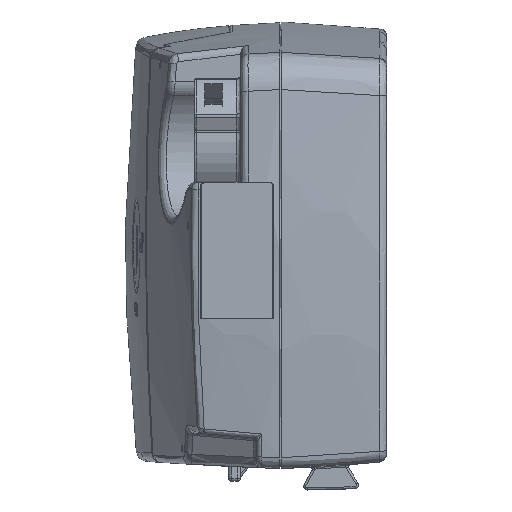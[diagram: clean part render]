
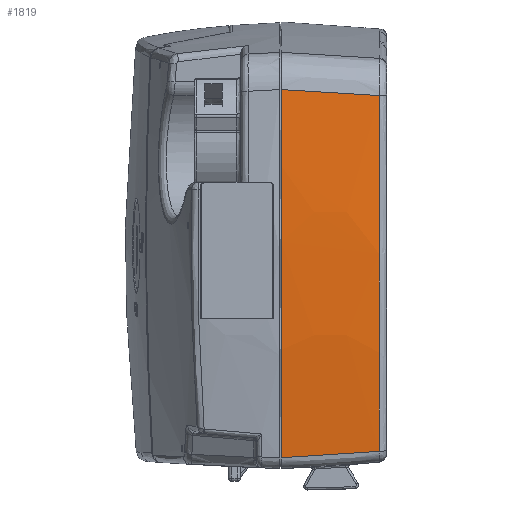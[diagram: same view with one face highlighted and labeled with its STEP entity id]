
A CAD part, left-side view. The second image highlights one B-rep face of the part: STEP entity #1819.
In plain terms, the highlighted free-form (B-spline) face has degree [3, 3] with [4, 4] control points.
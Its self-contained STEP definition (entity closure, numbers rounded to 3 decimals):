
#1819 = ADVANCED_FACE ( 'NONE', ( #23964 ), #46394, .F. ) ;
#1974 = CARTESIAN_POINT ( 'NONE',  ( -104.412, 8.767, -52.857 ) ) ;
#2133 = CARTESIAN_POINT ( 'NONE',  ( -104.899, 0.6, 39.07 ) ) ;
#2349 = EDGE_CURVE ( 'NONE', #36584, #24264, #32482, .T. ) ;
#3182 = CARTESIAN_POINT ( 'NONE',  ( -105.434, 4.829, 37.411 ) ) ;
#3643 = EDGE_CURVE ( 'NONE', #6511, #42723, #33957, .T. ) ;
#5065 = B_SPLINE_CURVE_WITH_KNOTS ( 'NONE', 3,
 ( #33793, #37663, #49286, #26238, #3182, #30090 ),
 .UNSPECIFIED., .F., .F.,
 ( 4, 2, 4 ),
 ( 0., 0.498, 1. ),
 .UNSPECIFIED. ) ;
#5839 = CARTESIAN_POINT ( 'NONE',  ( -108.481, 25., -22.304 ) ) ;
#6511 = VERTEX_POINT ( 'NONE', #28414 ) ;
#8777 = CARTESIAN_POINT ( 'NONE',  ( -104.21, 4.817, -51.122 ) ) ;
#9690 = CARTESIAN_POINT ( 'NONE',  ( -107.658, 8.635, -22.304 ) ) ;
#9996 = CARTESIAN_POINT ( 'NONE',  ( -107.776, 25., -22.095 ) ) ;
#12660 = CARTESIAN_POINT ( 'NONE',  ( -104.504, 8.854, -51.447 ) ) ;
#13567 = CARTESIAN_POINT ( 'NONE',  ( -108.907, 25., 8.425 ) ) ;
#13880 = CARTESIAN_POINT ( 'NONE',  ( -108.196, 25., 8.248 ) ) ;
#15000 = CARTESIAN_POINT ( 'NONE',  ( -106.167, 0.809, 22.402 ) ) ;
#16520 = CARTESIAN_POINT ( 'NONE',  ( -105.163, 20.975, -52.175 ) ) ;
#17431 = CARTESIAN_POINT ( 'NONE',  ( -108.085, 8.617, 8.425 ) ) ;
#17738 = CARTESIAN_POINT ( 'NONE',  ( -106.548, 25., 38.526 ) ) ;
#17811 = CARTESIAN_POINT ( 'NONE',  ( -103.863, 0.809, -50.738 ) ) ;
#18176 = ORIENTED_EDGE ( 'NONE', *, *, #2349, .F. ) ;
#18867 = CARTESIAN_POINT ( 'NONE',  ( -105.074, 0.809, 37.052 ) ) ;
#19897 = EDGE_CURVE ( 'NONE', #24264, #6511, #5065, .T. ) ;
#20062 = ORIENTED_EDGE ( 'NONE', *, *, #27258, .F. ) ;
#20261 = ORIENTED_EDGE ( 'NONE', *, *, #3643, .F. ) ;
#21134 = CARTESIAN_POINT ( 'NONE',  ( -105.232, 25., -52.857 ) ) ;
#21297 = CARTESIAN_POINT ( 'NONE',  ( -106.505, 25., 39.07 ) ) ;
#22758 = CARTESIAN_POINT ( 'NONE',  ( -105.36, 0.809, -36.124 ) ) ;
#23964 = FACE_OUTER_BOUND ( 'NONE', #44591, .T. ) ;
#24264 = VERTEX_POINT ( 'NONE', #27548 ) ;
#25216 = CARTESIAN_POINT ( 'NONE',  ( -105.684, 8.715, 39.07 ) ) ;
#26238 = CARTESIAN_POINT ( 'NONE',  ( -105.738, 8.878, 37.716 ) ) ;
#27258 = EDGE_CURVE ( 'NONE', #42723, #36584, #41711, .T. ) ;
#27548 = CARTESIAN_POINT ( 'NONE',  ( -106.548, 25., 38.526 ) ) ;
#28414 = CARTESIAN_POINT ( 'NONE',  ( -105.074, 0.809, 37.052 ) ) ;
#28911 = CARTESIAN_POINT ( 'NONE',  ( -103.629, 0.678, -52.857 ) ) ;
#30090 = CARTESIAN_POINT ( 'NONE',  ( -105.074, 0.809, 37.052 ) ) ;
#31848 = CARTESIAN_POINT ( 'NONE',  ( -103.863, 0.809, -50.738 ) ) ;
#32482 = B_SPLINE_CURVE_WITH_KNOTS ( 'NONE', 3,
 ( #36944, #48400, #9996, #13880, #40811, #17738 ),
 .UNSPECIFIED., .F., .F.,
 ( 4, 2, 4 ),
 ( 0., 0.5, 1. ),
 .UNSPECIFIED. ) ;
#32750 = CARTESIAN_POINT ( 'NONE',  ( -108.195, 16.811, -22.304 ) ) ;
#33793 = CARTESIAN_POINT ( 'NONE',  ( -106.548, 25., 38.526 ) ) ;
#33957 = B_SPLINE_CURVE_WITH_KNOTS ( 'NONE', 3,
 ( #18867, #15000, #41932, #45816, #22758, #49678 ),
 .UNSPECIFIED., .F., .F.,
 ( 4, 2, 4 ),
 ( 0., 0.5, 1. ),
 .UNSPECIFIED. ) ;
#36584 = VERTEX_POINT ( 'NONE', #46549 ) ;
#36635 = CARTESIAN_POINT ( 'NONE',  ( -106.871, 0.478, -22.304 ) ) ;
#36944 = CARTESIAN_POINT ( 'NONE',  ( -105.29, 25., -52.316 ) ) ;
#37663 = CARTESIAN_POINT ( 'NONE',  ( -106.417, 20.99, 38.395 ) ) ;
#39577 = CARTESIAN_POINT ( 'NONE',  ( -104.981, 16.944, -51.974 ) ) ;
#40493 = CARTESIAN_POINT ( 'NONE',  ( -108.622, 16.802, 8.425 ) ) ;
#40811 = CARTESIAN_POINT ( 'NONE',  ( -107.717, 25., 23.398 ) ) ;
#41711 =( BOUNDED_CURVE ( )  B_SPLINE_CURVE ( 3, ( #31848, #8777, #12660, #39577, #16520, #43459 ),
 .UNSPECIFIED., .F., .F. ) 
 B_SPLINE_CURVE_WITH_KNOTS ( ( 4, 2, 4 ),
 ( 0., 0.501, 1. ),
 .UNSPECIFIED. ) 
 CURVE ( )  GEOMETRIC_REPRESENTATION_ITEM ( )  RATIONAL_B_SPLINE_CURVE ( ( 1., 1., 1., 1., 1., 1. ) ) 
 REPRESENTATION_ITEM ( '' )  );
#41932 = CARTESIAN_POINT ( 'NONE',  ( -106.609, 0.809, 7.762 ) ) ;
#42530 = ORIENTED_EDGE ( 'NONE', *, *, #19897, .F. ) ;
#42723 = VERTEX_POINT ( 'NONE', #17811 ) ;
#43459 = CARTESIAN_POINT ( 'NONE',  ( -105.29, 25., -52.316 ) ) ;
#44368 = CARTESIAN_POINT ( 'NONE',  ( -107.297, 0.452, 8.425 ) ) ;
#44591 = EDGE_LOOP ( 'NONE', ( #20261, #42530, #18176, #20062 ) ) ;
#45816 = CARTESIAN_POINT ( 'NONE',  ( -106.205, 0.809, -21.502 ) ) ;
#46394 =( BOUNDED_SURFACE ( )  B_SPLINE_SURFACE ( 3, 3, ( 
 ( #21134, #48083, #1974, #28911 ),
 ( #5839, #32750, #9690, #36635 ),
 ( #13567, #40493, #17431, #44368 ),
 ( #21297, #48251, #25216, #2133 ) ),
 .UNSPECIFIED., .F., .F., .F. ) 
 B_SPLINE_SURFACE_WITH_KNOTS ( ( 4, 4 ),
 ( 4, 4 ),
 ( 0.468, 0.524 ),
 ( 0., 1. ),
 .UNSPECIFIED. ) 
 GEOMETRIC_REPRESENTATION_ITEM ( )  RATIONAL_B_SPLINE_SURFACE ( (
 ( 0.602, 0.602, 0.602, 0.602),
 ( 0.6, 0.6, 0.6, 0.6),
 ( 0.6, 0.6, 0.6, 0.6),
 ( 0.601, 0.601, 0.601, 0.601) ) ) 
 REPRESENTATION_ITEM ( '' )  SURFACE ( )  );
#46549 = CARTESIAN_POINT ( 'NONE',  ( -105.29, 25., -52.316 ) ) ;
#48083 = CARTESIAN_POINT ( 'NONE',  ( -104.947, 16.877, -52.857 ) ) ;
#48251 = CARTESIAN_POINT ( 'NONE',  ( -106.22, 16.851, 39.07 ) ) ;
#48400 = CARTESIAN_POINT ( 'NONE',  ( -106.877, 25., -37.226 ) ) ;
#49286 = CARTESIAN_POINT ( 'NONE',  ( -106.23, 16.971, 38.208 ) ) ;
#49678 = CARTESIAN_POINT ( 'NONE',  ( -103.863, 0.809, -50.738 ) ) ;
